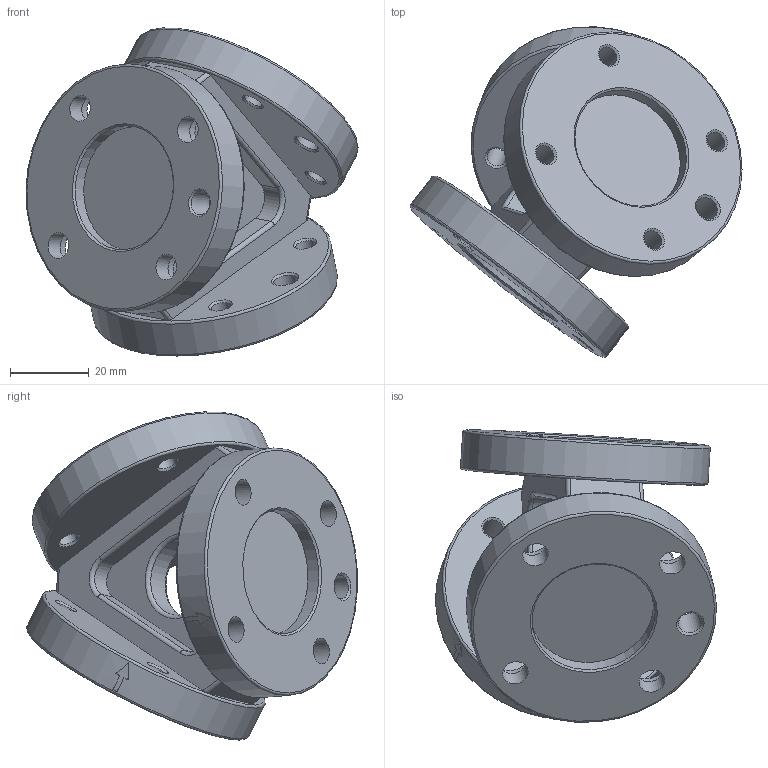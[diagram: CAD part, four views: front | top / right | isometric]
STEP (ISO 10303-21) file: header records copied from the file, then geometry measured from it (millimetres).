
FILE_DESCRIPTION(/* description */ (''),/* implementation_level */ '2;1');
FILE_NAME(/* name */ 'T:\CAD\Standard\Daten\3D-Datenbank\G-YA\G-YA063-S1.stp',/* time_stamp */ '2020-05-29T17:21:07+02:00',/* author */ ('hcanti'),/* organization */ (''),/* preprocessor_version */ 'ST-DEVELOPER v17',/* originating_system */ 'Autodesk Inventor 2018',/* authorisation */ '');
FILE_SCHEMA (('AUTOMOTIVE_DESIGN { 1 0 10303 214 3 1 1 }'));
Length unit declared in the file: millimetre
Products named in the file (5): Baugruppe10; XG-YA063-S1; G-YA063-S0-01 Y-Adapter 3-Eck; G-YA063-S0-02 Y-Adapter Flansch (Gewinde); G-YA063-S0-03 Y-Adapter Flansch (Senkungen)
Assembly tree (5 placements, depth 3):
  Baugruppe10
    XG-YA063-S1
      G-YA063-S0-02 Y-Adapter Flansch (Gewinde)  x2
      G-YA063-S0-01 Y-Adapter 3-Eck
      G-YA063-S0-03 Y-Adapter Flansch (Senkungen)
Bounding box: 84.32 x 83.93 x 83.33 mm (x, y, z)
Volume: 105173.7 mm3; surface area: 36636.5 mm2
Topology: 4 solids, 4 shells, 136 faces, 330 edges, 214 vertices
Faces by surface type: plane 50, cylinder 47, cone 25, torus 14
Full cylindrical faces by diameter (mm): 5 x8, 6.02 x3, 6.6 x4, 11 x4, 20 x1, 31.52 x3, 63 x3
Entity records: 3414 total; most frequent: DIRECTION 633, CARTESIAN_POINT 537, ORIENTED_EDGE 510, AXIS2_PLACEMENT_3D 262, EDGE_CURVE 255, VERTEX_POINT 166, EDGE_LOOP 137, CIRCLE 126
